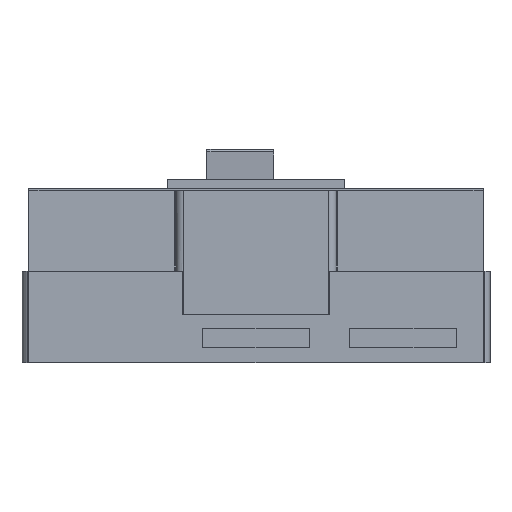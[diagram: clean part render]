
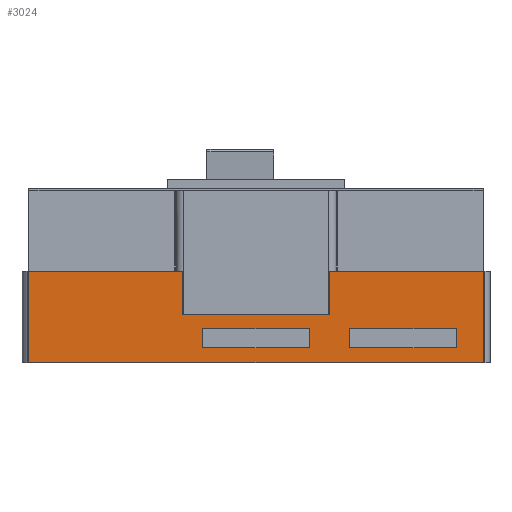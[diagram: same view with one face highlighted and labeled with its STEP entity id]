
A CAD part, front view. The second image highlights one B-rep face of the part: STEP entity #3024.
In plain terms, the highlighted planar face has unit normal (0, -1, 0).
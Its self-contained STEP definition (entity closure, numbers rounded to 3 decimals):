
#20 = VERTEX_POINT ( 'NONE', #3072 ) ;
#41 = CARTESIAN_POINT ( 'NONE',  ( 162.5, 0., 14. ) ) ;
#167 = VECTOR ( 'NONE', #232, 1000. ) ;
#199 = VERTEX_POINT ( 'NONE', #4196 ) ;
#232 = DIRECTION ( 'NONE',  ( 0., 0., 1. ) ) ;
#237 = VERTEX_POINT ( 'NONE', #1213 ) ;
#260 = DIRECTION ( 'NONE',  ( 1., 0., 0. ) ) ;
#269 = LINE ( 'NONE', #2935, #3546 ) ;
#305 = VECTOR ( 'NONE', #260, 1000. ) ;
#306 = EDGE_CURVE ( 'NONE', #4680, #729, #3688, .T. ) ;
#327 = CARTESIAN_POINT ( 'NONE',  ( 0., 0., 315. ) ) ;
#341 = DIRECTION ( 'NONE',  ( 0., 0., -1. ) ) ;
#380 = EDGE_CURVE ( 'NONE', #237, #2356, #3841, .T. ) ;
#461 = LINE ( 'NONE', #3115, #823 ) ;
#540 = CARTESIAN_POINT ( 'NONE',  ( 425., 0., 315. ) ) ;
#545 = EDGE_LOOP ( 'NONE', ( #1254, #2592, #4168, #4232 ) ) ;
#558 = EDGE_CURVE ( 'NONE', #2240, #4085, #269, .T. ) ;
#577 = VECTOR ( 'NONE', #3772, 1000. ) ;
#616 = EDGE_CURVE ( 'NONE', #729, #1408, #1836, .T. ) ;
#705 = LINE ( 'NONE', #2823, #3437 ) ;
#729 = VERTEX_POINT ( 'NONE', #2402 ) ;
#757 = LINE ( 'NONE', #2820, #1128 ) ;
#823 = VECTOR ( 'NONE', #1075, 1000. ) ;
#875 = VECTOR ( 'NONE', #4255, 1000. ) ;
#876 = EDGE_CURVE ( 'NONE', #1944, #237, #4711, .T. ) ;
#994 = VERTEX_POINT ( 'NONE', #2738 ) ;
#1005 = ORIENTED_EDGE ( 'NONE', *, *, #4803, .F. ) ;
#1016 = FACE_BOUND ( 'NONE', #1083, .T. ) ;
#1067 = VECTOR ( 'NONE', #2267, 1000. ) ;
#1075 = DIRECTION ( 'NONE',  ( 1., 0., 0. ) ) ;
#1083 = EDGE_LOOP ( 'NONE', ( #1577, #3166, #3208, #3390 ) ) ;
#1120 = PLANE ( 'NONE',  #2800 ) ;
#1128 = VECTOR ( 'NONE', #4050, 1000. ) ;
#1144 = LINE ( 'NONE', #1291, #4108 ) ;
#1145 = CARTESIAN_POINT ( 'NONE',  ( 143.7, 0., 45. ) ) ;
#1189 = DIRECTION ( 'NONE',  ( 0., 0., 1. ) ) ;
#1213 = CARTESIAN_POINT ( 'NONE',  ( 162.5, 0., 32. ) ) ;
#1254 = ORIENTED_EDGE ( 'NONE', *, *, #3949, .F. ) ;
#1264 = VECTOR ( 'NONE', #341, 1000. ) ;
#1291 = CARTESIAN_POINT ( 'NONE',  ( 300., 0., 14. ) ) ;
#1303 = CARTESIAN_POINT ( 'NONE',  ( 0., 0., 86. ) ) ;
#1328 = EDGE_CURVE ( 'NONE', #1863, #20, #1962, .T. ) ;
#1351 = FACE_OUTER_BOUND ( 'NONE', #3313, .T. ) ;
#1408 = VERTEX_POINT ( 'NONE', #1705 ) ;
#1423 = VECTOR ( 'NONE', #4510, 1000. ) ;
#1452 = CARTESIAN_POINT ( 'NONE',  ( 300., 0., 32. ) ) ;
#1531 = DIRECTION ( 'NONE',  ( 1., 0., 0. ) ) ;
#1577 = ORIENTED_EDGE ( 'NONE', *, *, #3224, .F. ) ;
#1597 = EDGE_CURVE ( 'NONE', #199, #3057, #2773, .T. ) ;
#1601 = VERTEX_POINT ( 'NONE', #3446 ) ;
#1662 = ORIENTED_EDGE ( 'NONE', *, *, #4682, .T. ) ;
#1705 = CARTESIAN_POINT ( 'NONE',  ( 142.839, 0., 86. ) ) ;
#1739 = ORIENTED_EDGE ( 'NONE', *, *, #4408, .F. ) ;
#1758 = VECTOR ( 'NONE', #1189, 1000. ) ;
#1790 = ORIENTED_EDGE ( 'NONE', *, *, #616, .T. ) ;
#1836 = LINE ( 'NONE', #2517, #4809 ) ;
#1863 = VERTEX_POINT ( 'NONE', #3767 ) ;
#1944 = VERTEX_POINT ( 'NONE', #41 ) ;
#1962 = LINE ( 'NONE', #540, #1264 ) ;
#1968 = EDGE_CURVE ( 'NONE', #2733, #994, #705, .T. ) ;
#2000 = FACE_BOUND ( 'NONE', #545, .T. ) ;
#2080 = CARTESIAN_POINT ( 'NONE',  ( 0., 0., 0. ) ) ;
#2097 = CARTESIAN_POINT ( 'NONE',  ( 425., 0., 86. ) ) ;
#2127 = DIRECTION ( 'NONE',  ( 0., 0., -1. ) ) ;
#2191 = VECTOR ( 'NONE', #1531, 1000. ) ;
#2240 = VERTEX_POINT ( 'NONE', #4699 ) ;
#2241 = LINE ( 'NONE', #3017, #1423 ) ;
#2267 = DIRECTION ( 'NONE',  ( 0., 0., 1. ) ) ;
#2356 = VERTEX_POINT ( 'NONE', #2655 ) ;
#2402 = CARTESIAN_POINT ( 'NONE',  ( 143.7, 0., 86. ) ) ;
#2478 = CARTESIAN_POINT ( 'NONE',  ( 262.5, 0., 32. ) ) ;
#2485 = VECTOR ( 'NONE', #2497, 1000. ) ;
#2497 = DIRECTION ( 'NONE',  ( 1., 0., 0. ) ) ;
#2517 = CARTESIAN_POINT ( 'NONE',  ( 425., 0., 86. ) ) ;
#2519 = DIRECTION ( 'NONE',  ( 0., 1., 0. ) ) ;
#2548 = VECTOR ( 'NONE', #3220, 1000. ) ;
#2592 = ORIENTED_EDGE ( 'NONE', *, *, #4079, .F. ) ;
#2655 = CARTESIAN_POINT ( 'NONE',  ( 262.5, 0., 32. ) ) ;
#2682 = EDGE_CURVE ( 'NONE', #1408, #2240, #2818, .T. ) ;
#2721 = EDGE_CURVE ( 'NONE', #2733, #4513, #1144, .T. ) ;
#2733 = VERTEX_POINT ( 'NONE', #2743 ) ;
#2738 = CARTESIAN_POINT ( 'NONE',  ( 400., 0., 14. ) ) ;
#2743 = CARTESIAN_POINT ( 'NONE',  ( 300., 0., 14. ) ) ;
#2753 = VERTEX_POINT ( 'NONE', #4048 ) ;
#2773 = LINE ( 'NONE', #1303, #2191 ) ;
#2800 = AXIS2_PLACEMENT_3D ( 'NONE', #327, #2519, #4654 ) ;
#2818 = LINE ( 'NONE', #2097, #2548 ) ;
#2820 = CARTESIAN_POINT ( 'NONE',  ( 262.5, 0., 14. ) ) ;
#2823 = CARTESIAN_POINT ( 'NONE',  ( 400., 0., 14. ) ) ;
#2861 = CARTESIAN_POINT ( 'NONE',  ( 143.7, 0., 45. ) ) ;
#2924 = ORIENTED_EDGE ( 'NONE', *, *, #1328, .F. ) ;
#2935 = CARTESIAN_POINT ( 'NONE',  ( 0., 0., 315. ) ) ;
#3017 = CARTESIAN_POINT ( 'NONE',  ( 425., 0., 86. ) ) ;
#3024 = ADVANCED_FACE ( 'NONE', ( #1351, #2000, #1016 ), #1120, .F. ) ;
#3039 = ORIENTED_EDGE ( 'NONE', *, *, #4455, .T. ) ;
#3047 = LINE ( 'NONE', #4053, #1758 ) ;
#3051 = DIRECTION ( 'NONE',  ( -1., 0., 0. ) ) ;
#3057 = VERTEX_POINT ( 'NONE', #4348 ) ;
#3072 = CARTESIAN_POINT ( 'NONE',  ( 425., 0., 0. ) ) ;
#3115 = CARTESIAN_POINT ( 'NONE',  ( 400., 0., 32. ) ) ;
#3157 = ORIENTED_EDGE ( 'NONE', *, *, #1597, .F. ) ;
#3166 = ORIENTED_EDGE ( 'NONE', *, *, #1968, .F. ) ;
#3192 = CARTESIAN_POINT ( 'NONE',  ( 162.5, 0., 14. ) ) ;
#3208 = ORIENTED_EDGE ( 'NONE', *, *, #2721, .T. ) ;
#3220 = DIRECTION ( 'NONE',  ( -1., 0., 0. ) ) ;
#3224 = EDGE_CURVE ( 'NONE', #994, #1601, #3527, .T. ) ;
#3313 = EDGE_LOOP ( 'NONE', ( #1662, #2924, #3039, #3157, #1005, #1739, #3525, #1790, #4169, #4726 ) ) ;
#3351 = DIRECTION ( 'NONE',  ( 0., 0., 1. ) ) ;
#3390 = ORIENTED_EDGE ( 'NONE', *, *, #4601, .T. ) ;
#3437 = VECTOR ( 'NONE', #3556, 1000. ) ;
#3446 = CARTESIAN_POINT ( 'NONE',  ( 400., 0., 32. ) ) ;
#3524 = CARTESIAN_POINT ( 'NONE',  ( 400., 0., 14. ) ) ;
#3525 = ORIENTED_EDGE ( 'NONE', *, *, #306, .T. ) ;
#3527 = LINE ( 'NONE', #3524, #4795 ) ;
#3546 = VECTOR ( 'NONE', #2127, 1000. ) ;
#3556 = DIRECTION ( 'NONE',  ( 1., 0., 0. ) ) ;
#3688 = LINE ( 'NONE', #3753, #577 ) ;
#3753 = CARTESIAN_POINT ( 'NONE',  ( 143.7, 0., 45. ) ) ;
#3767 = CARTESIAN_POINT ( 'NONE',  ( 425., 0., 86. ) ) ;
#3772 = DIRECTION ( 'NONE',  ( 0., 0., 1. ) ) ;
#3841 = LINE ( 'NONE', #2478, #305 ) ;
#3949 = EDGE_CURVE ( 'NONE', #3984, #2356, #4867, .T. ) ;
#3982 = LINE ( 'NONE', #4330, #875 ) ;
#3984 = VERTEX_POINT ( 'NONE', #4158 ) ;
#4048 = CARTESIAN_POINT ( 'NONE',  ( 281.3, 0., 45. ) ) ;
#4050 = DIRECTION ( 'NONE',  ( 1., 0., 0. ) ) ;
#4053 = CARTESIAN_POINT ( 'NONE',  ( 281.3, 0., 45. ) ) ;
#4079 = EDGE_CURVE ( 'NONE', #1944, #3984, #757, .T. ) ;
#4085 = VERTEX_POINT ( 'NONE', #2080 ) ;
#4108 = VECTOR ( 'NONE', #4499, 1000. ) ;
#4158 = CARTESIAN_POINT ( 'NONE',  ( 262.5, 0., 14. ) ) ;
#4168 = ORIENTED_EDGE ( 'NONE', *, *, #876, .T. ) ;
#4169 = ORIENTED_EDGE ( 'NONE', *, *, #2682, .T. ) ;
#4196 = CARTESIAN_POINT ( 'NONE',  ( 281.3, 0., 86. ) ) ;
#4232 = ORIENTED_EDGE ( 'NONE', *, *, #380, .T. ) ;
#4255 = DIRECTION ( 'NONE',  ( 1., 0., 0. ) ) ;
#4330 = CARTESIAN_POINT ( 'NONE',  ( 0., 0., 0. ) ) ;
#4336 = LINE ( 'NONE', #2861, #2485 ) ;
#4348 = CARTESIAN_POINT ( 'NONE',  ( 282.161, 0., 86. ) ) ;
#4408 = EDGE_CURVE ( 'NONE', #4680, #2753, #4336, .T. ) ;
#4455 = EDGE_CURVE ( 'NONE', #1863, #3057, #2241, .T. ) ;
#4499 = DIRECTION ( 'NONE',  ( 0., 0., 1. ) ) ;
#4510 = DIRECTION ( 'NONE',  ( -1., 0., 0. ) ) ;
#4513 = VERTEX_POINT ( 'NONE', #1452 ) ;
#4601 = EDGE_CURVE ( 'NONE', #4513, #1601, #461, .T. ) ;
#4621 = CARTESIAN_POINT ( 'NONE',  ( 262.5, 0., 14. ) ) ;
#4654 = DIRECTION ( 'NONE',  ( 0., 0., 1. ) ) ;
#4680 = VERTEX_POINT ( 'NONE', #1145 ) ;
#4682 = EDGE_CURVE ( 'NONE', #4085, #20, #3982, .T. ) ;
#4699 = CARTESIAN_POINT ( 'NONE',  ( 0., 0., 86. ) ) ;
#4711 = LINE ( 'NONE', #3192, #1067 ) ;
#4726 = ORIENTED_EDGE ( 'NONE', *, *, #558, .T. ) ;
#4795 = VECTOR ( 'NONE', #3351, 1000. ) ;
#4803 = EDGE_CURVE ( 'NONE', #2753, #199, #3047, .T. ) ;
#4809 = VECTOR ( 'NONE', #3051, 1000. ) ;
#4867 = LINE ( 'NONE', #4621, #167 ) ;
